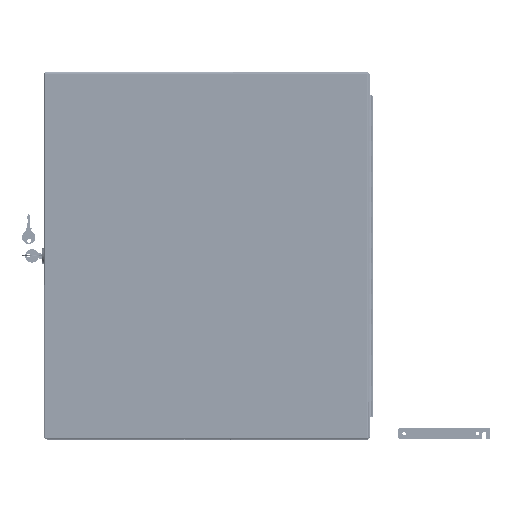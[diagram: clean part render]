
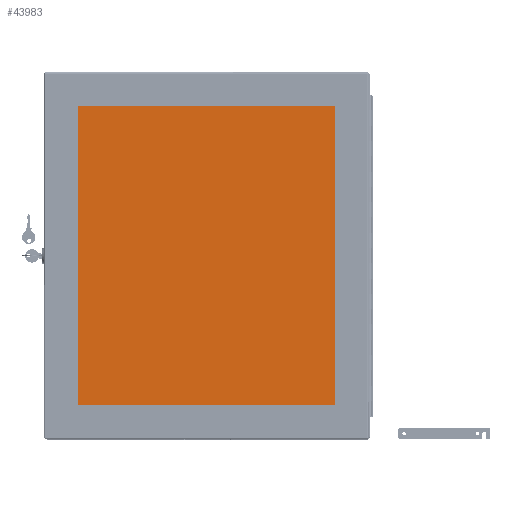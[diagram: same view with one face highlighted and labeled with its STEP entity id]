
A CAD part, top view. The second image highlights one B-rep face of the part: STEP entity #43983.
In plain terms, the highlighted planar face has unit normal (0, 0, 1) as drawn and (0, -1, 0) by its records, which use the part's own axes.
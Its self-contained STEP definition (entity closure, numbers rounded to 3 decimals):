
#6277=FACE_OUTER_BOUND('',#9110,.T.);
#9110=EDGE_LOOP('',(#40206,#40207,#40208,#40209));
#13331=LINE('',#75748,#17576);
#13335=LINE('',#75755,#17580);
#13338=LINE('',#75761,#17583);
#13340=LINE('',#75764,#17585);
#17576=VECTOR('',#61411,0.394);
#17580=VECTOR('',#61417,0.394);
#17583=VECTOR('',#61422,0.394);
#17585=VECTOR('',#61426,0.394);
#21736=VERTEX_POINT('',#75745);
#21737=VERTEX_POINT('',#75747);
#21739=VERTEX_POINT('',#75753);
#21741=VERTEX_POINT('',#75759);
#27895=EDGE_CURVE('',#21736,#21737,#13331,.T.);
#27899=EDGE_CURVE('',#21739,#21736,#13335,.T.);
#27902=EDGE_CURVE('',#21741,#21739,#13338,.T.);
#27904=EDGE_CURVE('',#21737,#21741,#13340,.T.);
#40206=ORIENTED_EDGE('',*,*,#27904,.F.);
#40207=ORIENTED_EDGE('',*,*,#27895,.F.);
#40208=ORIENTED_EDGE('',*,*,#27899,.F.);
#40209=ORIENTED_EDGE('',*,*,#27902,.F.);
#41602=PLANE('',#49111);
#43983=ADVANCED_FACE('',(#6277),#41602,.F.);
#49111=AXIS2_PLACEMENT_3D('',#75765,#61427,#61428);
#61411=DIRECTION('',(0.,0.,1.));
#61417=DIRECTION('',(-1.,0.,0.));
#61422=DIRECTION('',(0.,0.,-1.));
#61426=DIRECTION('',(1.,0.,0.));
#61427=DIRECTION('center_axis',(0.,1.,0.));
#61428=DIRECTION('ref_axis',(0.,0.,1.));
#75745=CARTESIAN_POINT('',(-18.198,0.,-2.927));
#75747=CARTESIAN_POINT('',(-18.198,0.,14.885));
#75748=CARTESIAN_POINT('',(-18.198,0.,-2.927));
#75753=CARTESIAN_POINT('',(2.302,0.,-2.927));
#75755=CARTESIAN_POINT('',(2.302,0.,-2.927));
#75759=CARTESIAN_POINT('',(2.302,0.,14.885));
#75761=CARTESIAN_POINT('',(2.302,0.,14.885));
#75764=CARTESIAN_POINT('',(-18.198,0.,14.885));
#75765=CARTESIAN_POINT('Origin',(-7.948,0.,5.979));
